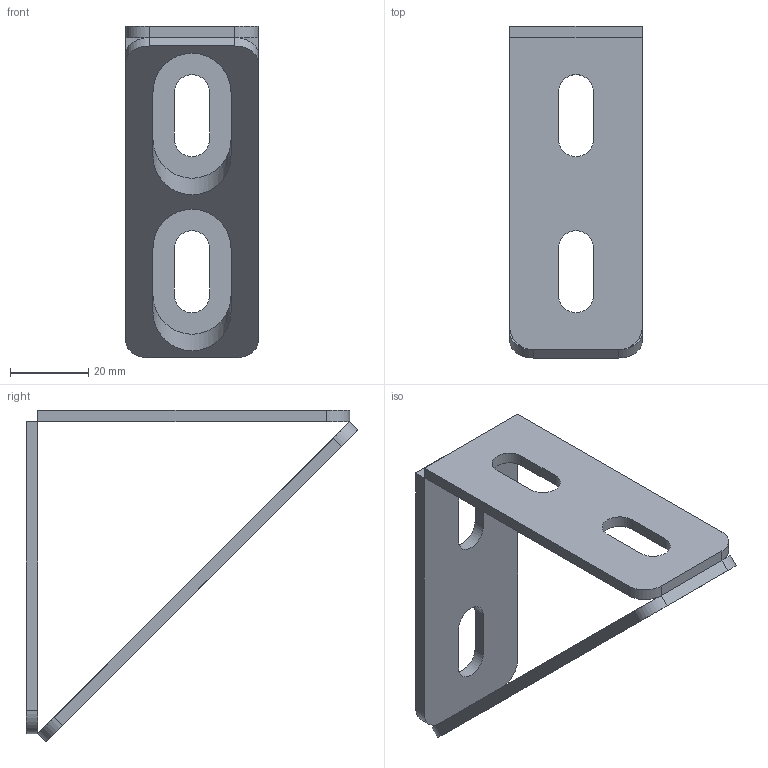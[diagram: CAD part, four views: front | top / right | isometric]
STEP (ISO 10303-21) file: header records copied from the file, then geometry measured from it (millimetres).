
FILE_DESCRIPTION (( 'STEP AP214' ), '1' );
FILE_NAME ('8204-2s.STEP', '2017-10-08T08:14:22', ( '' ), ( '' ), 'SwSTEP 2.0', 'SolidWorks 2014', '' );
FILE_SCHEMA (( 'AUTOMOTIVE_DESIGN' ));
Length unit declared in the file: millimetre
Products named in the file (6): 8204 - 1; 8204 - 2; 8204-2s
Assembly tree (3 placements, depth 2):
  8204 - 2
  8204 - 1
  8204 - 1
  8204-2s
    8204 - 1  x2
    8204 - 2
Bounding box: 34 x 85.12 x 85.12 mm (x, y, z)
Volume: 20553.3 mm3; surface area: 17291.3 mm2
Topology: 3 solids, 3 shells, 52 faces, 138 edges, 92 vertices
Faces by surface type: plane 30, cylinder 22
Entity records: 1291 total; most frequent: CARTESIAN_POINT 239, ORIENTED_EDGE 192, DIRECTION 190, EDGE_CURVE 96, VECTOR 64, LINE 64, VERTEX_POINT 64, AXIS2_PLACEMENT_3D 63
